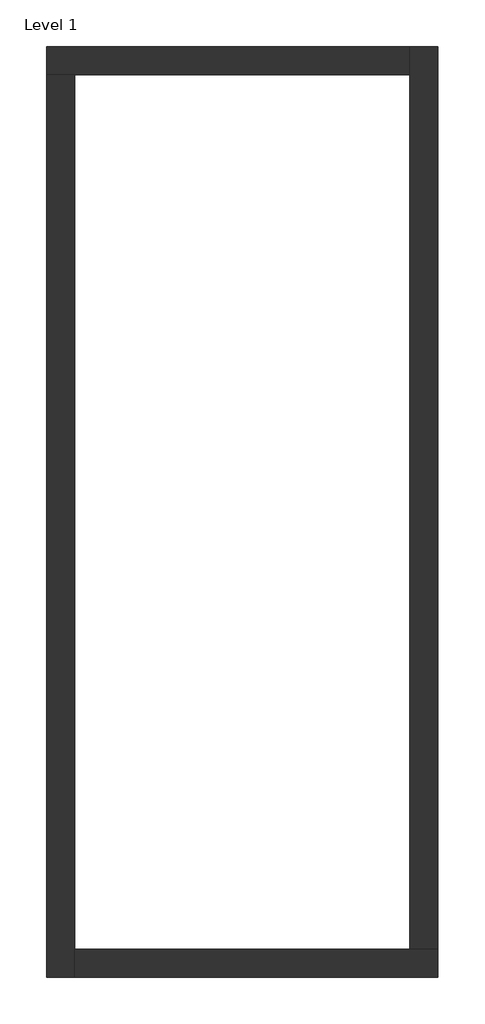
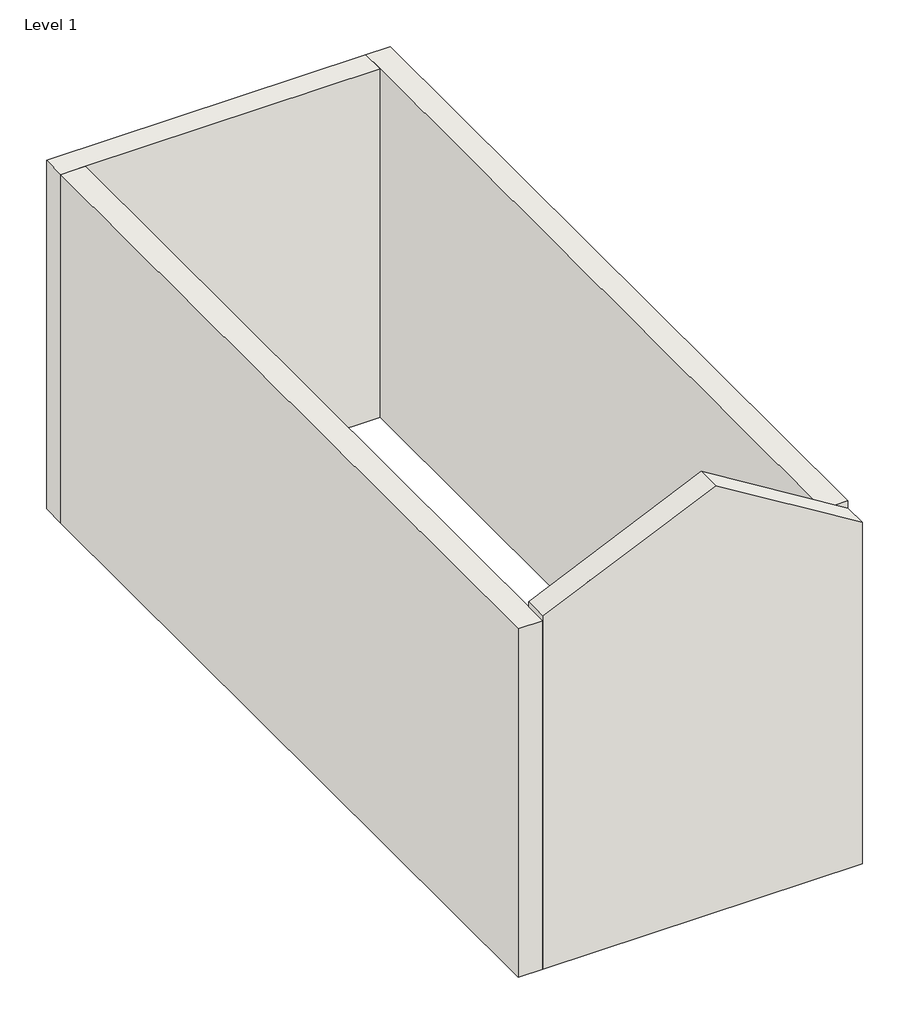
# One storey: 4 walls.
"""IFC4 building model written with IfcOpenShell, lengths in millimetres."""

import ifcopenshell
import ifcopenshell.guid

model = None  # the IFC model being written
_history = None  # IfcOwnerHistory: only IFC2X3 demands one
_inside = {}  # id of a spatial element -> (the spatial element, [elements in it])
_under = {}  # id of a project, library or spatial element -> (it, [spatial elements below it])
_declared = {}  # id of a project -> (the project, [libraries it declares])
_typed = {}  # id of a type object -> (the type object, [elements of that type])
_made_of = {}  # id of a material, layer set ... -> (it, [elements and type objects made of it])


def new_model(schema):
    """Start an empty IFC model of exactly this schema.

    Asked for "IFC4X3", IfcOpenShell would pick the latest addendum, in which some entities
    have other attributes; the version numbers below select the first issue.
    IFC2X3 requires an IfcOwnerHistory on every rooted entity: one is made here for all.
    """
    global model, _history
    if schema == "IFC4X3":
        model = ifcopenshell.file(schema_version=(4, 3, 0, 0))
    else:
        model = ifcopenshell.file(schema=schema)
    _inside.clear()
    _under.clear()
    _declared.clear()
    _typed.clear()
    _made_of.clear()
    _history = None
    if model.schema == "IFC2X3":
        org = make("IfcOrganization", Name="unknown")
        user = make(
            "IfcPersonAndOrganization",
            ThePerson=make("IfcPerson", FamilyName="unknown"),
            TheOrganization=org,
        )
        app = make(
            "IfcApplication",
            ApplicationDeveloper=org,
            Version="unknown",
            ApplicationFullName="unknown",
            ApplicationIdentifier="unknown",
        )
        _history = make(
            "IfcOwnerHistory",
            OwningUser=user,
            OwningApplication=app,
            ChangeAction="ADDED",
            CreationDate=0,
        )
    return model


def make(cls, **values):
    """One entity of the class cls with the attributes given. An attribute that is None is left unset."""
    return model.create_entity(
        cls, **{name: value for name, value in values.items() if value is not None}
    )


def rooted(cls, **values):
    """An entity with a GlobalId (a new one), such as an element, a storey or a relation."""
    return make(cls, GlobalId=ifcopenshell.guid.new(), OwnerHistory=_history, **values)


def si_unit(unit_type, name, prefix=None):
    """IfcSIUnit, for example si_unit("LENGTHUNIT", "METRE", prefix="MILLI")."""
    return make("IfcSIUnit", UnitType=unit_type, Prefix=prefix, Name=name)


def assignment(units):
    """IfcUnitAssignment: the units of a project."""
    return None if units is None else make("IfcUnitAssignment", Units=units)


def point(xyz):
    """IfcCartesianPoint."""
    return None if xyz is None else make("IfcCartesianPoint", Coordinates=xyz)


def direction(xyz):
    """IfcDirection."""
    return None if xyz is None else make("IfcDirection", DirectionRatios=xyz)


def frame(location, z_axis=None, x_axis=None):
    """IfcAxis2Placement3D, a coordinate frame: its origin and axes. An axis left out is left unset."""
    return make(
        "IfcAxis2Placement3D",
        Location=point(location),
        Axis=direction(z_axis),
        RefDirection=direction(x_axis),
    )


def origin():
    """The frame at (0, 0, 0) with its axes left unset."""
    return frame((0.0, 0.0, 0.0))


def place(relative_to, where):
    """IfcLocalPlacement: puts the frame where relative to a parent placement (None: the world)."""
    return make(
        "IfcLocalPlacement", PlacementRelTo=relative_to, RelativePlacement=where
    )


def context(
    kind, dimensions, precision=None, world=None, true_north=None, identifier=None
):
    """IfcGeometricRepresentationContext, for example the 3D "Model" context."""
    return make(
        "IfcGeometricRepresentationContext",
        ContextIdentifier=identifier,
        ContextType=kind,
        CoordinateSpaceDimension=dimensions,
        Precision=precision,
        WorldCoordinateSystem=world,
        TrueNorth=true_north,
    )


def project(units=None, contexts=None):
    """IfcProject with its units and contexts."""
    return rooted(
        "IfcProject",
        Name="project",
        RepresentationContexts=contexts,
        UnitsInContext=assignment(units),
    )


def spatial(cls, under=None, at=None, **own):
    """A site, building, storey or space (cls), placed at a placement, below another one or the project."""
    s = rooted(cls, ObjectPlacement=at, **own)
    if under is not None:
        _under.setdefault(under.id(), (under, []))[1].append(s)
    return s


def faces_of(points, faces, orient=None, outer=None):
    """IfcFace entities. A face is a list of loops; a loop is a list of indices into points, from 0.

    orient and outer hold one flag for each loop. By default every Orientation is true, the
    first loop of a face is its IfcFaceOuterBound and the others are IfcFaceBound.
    """
    made = []
    for i, loops in enumerate(faces):
        bounds = []
        for j, loop in enumerate(loops):
            is_outer = j == 0 if outer is None else outer[i][j]
            bounds.append(
                make(
                    "IfcFaceOuterBound" if is_outer else "IfcFaceBound",
                    Bound=make("IfcPolyLoop", Polygon=[points[k] for k in loop]),
                    Orientation=True if orient is None else orient[i][j],
                )
            )
        made.append(make("IfcFace", Bounds=bounds))
    return made


def faceted_brep(points, faces, orient=None, outer=None, voids=None):
    """IfcFacetedBrep: a solid bounded by flat faces; with voids (closed shells), ...WithVoids."""
    shared = [point(p) for p in points]
    hull = make("IfcClosedShell", CfsFaces=faces_of(shared, faces, orient, outer))
    if voids is None:
        return make("IfcFacetedBrep", Outer=hull)
    return make(
        "IfcFacetedBrepWithVoids",
        Outer=hull,
        Voids=[
            make(cls, CfsFaces=faces_of(shared, fs, o, b)) for cls, fs, o, b in voids
        ],
    )


def shape(context_of_items, identifier, shape_type, items):
    """IfcShapeRepresentation: the items that make up one representation, for example the "Body"."""
    return make(
        "IfcShapeRepresentation",
        ContextOfItems=context_of_items,
        RepresentationIdentifier=identifier,
        RepresentationType=shape_type,
        Items=items,
    )


def made_of(thing, what):
    """Note that an element or type object is made of a material, layer set ...; save() writes the relation."""
    if what is not None:
        _made_of.setdefault(what.id(), (what, []))[1].append(thing)
    return thing


def element(
    cls,
    number,
    at=None,
    inside=None,
    cuts=None,
    type_object=None,
    material=None,
    context=None,
    identifier="Body",
    shape_type=None,
    held_by="IfcProductDefinitionShape",
    body=None,
    shapes=None,
    **own,
):
    """One element of the class cls, such as IfcWall. Its Tag is "e" and its number.

    at: its placement. inside: the storey or other place that contains it. cuts: it is an
    opening in that element (IfcRelVoidsElement). A single representation is given by context,
    identifier, shape_type and body (its items); several are given by shapes. held_by: the class
    of the entity that holds the representations. save() writes the other relations.
    """
    e = rooted(cls, Tag="e%d" % number, ObjectPlacement=at, **own)
    if body is not None:
        shapes = [shape(context, identifier, shape_type, body)]
    if shapes is not None:
        e.Representation = make(held_by, Representations=shapes)
    if inside is not None:
        _inside.setdefault(inside.id(), (inside, []))[1].append(e)
    if cuts is not None:
        rooted(
            "IfcRelVoidsElement", RelatingBuildingElement=cuts, RelatedOpeningElement=e
        )
    if type_object is not None:
        _typed.setdefault(type_object.id(), (type_object, []))[1].append(e)
    return made_of(e, material)


def aggregate(whole, parts):
    """IfcRelAggregates: a whole, such as a stair, and the parts it consists of."""
    return rooted("IfcRelAggregates", RelatingObject=whole, RelatedObjects=parts)


def save(model, path):
    """Write the relations noted so far, then the file.

    IfcRelAggregates (storeys below a building ...), IfcRelContainedInSpatialStructure (elements
    in a storey), IfcRelDefinesByType, IfcRelAssociatesMaterial and IfcRelDeclares: one each for
    every whole, place, type object, material and project.
    """
    for whole, parts in _under.values():
        aggregate(whole, parts)
    for where, things in _inside.values():
        rooted(
            "IfcRelContainedInSpatialStructure",
            RelatedElements=things,
            RelatingStructure=where,
        )
    for kind, things in _typed.values():
        rooted("IfcRelDefinesByType", RelatedObjects=things, RelatingType=kind)
    for what, things in _made_of.values():
        rooted("IfcRelAssociatesMaterial", RelatedObjects=things, RelatingMaterial=what)
    for by, libraries in _declared.values():
        rooted("IfcRelDeclares", RelatingContext=by, RelatedDefinitions=libraries)
    model.write(path)


model = new_model("IFC4")

# Units and contexts
model_context = context("Model", 3, world=origin())
ifc_project = project(units=[si_unit("LENGTHUNIT", "METRE", prefix="MILLI")], contexts=[model_context])

# Site, building, storey
site = spatial("IfcSite", under=ifc_project)
building = spatial("IfcBuilding", under=site)
storey = spatial("IfcBuildingStorey", under=building, Name="Level 1", Elevation=0.0)

# Walls
placement = place(None, origin())
element("IfcWall", 1, ObjectType="Generic - 8\"", at=placement, inside=storey, context=model_context, shape_type="Brep", body=[
    faceted_brep([(-15488.4834209, 15519.2236327, 0.0), (-15285.2834209, 15519.2236327, 0.0), (-12846.8834209, 15519.2236327, 0.0), (-12846.8834209, 15519.2236327, 3048.0), (-15285.2834209, 15519.2236327, 3048.0), (-15488.4834209, 15519.2236327, 3048.0), (-15488.4834209, 15722.4236327, 0.0), (-15488.4834209, 15722.4236327, 3048.0), (-12846.8834209, 15722.4236327, 3048.0), (-12846.8834209, 15722.4236327, 0.0)], [[[0, 1, 2, 3, 4, 5]], [[6, 7, 8, 9]], [[2, 1, 0, 6, 9]], [[5, 4, 3, 8, 7]], [[0, 5, 7, 6]], [[3, 2, 9, 8]]]),
])
element("IfcWall", 2, ObjectType="Generic - 8\"", at=placement, inside=storey, context=model_context, shape_type="Brep", body=[
    faceted_brep([(-15285.2834209, 8966.0236327, 0.0), (-15285.2834209, 9169.2236327, 0.0), (-15285.2834209, 15519.2236327, 0.0), (-15285.2834209, 15519.2236327, 3048.0), (-15285.2834209, 8966.0236327, 3048.0), (-15488.4834209, 8966.0236327, 0.0), (-15488.4834209, 8966.0236327, 3048.0), (-15488.4834209, 15519.2236327, 3048.0), (-15488.4834209, 15519.2236327, 0.0)], [[[0, 1, 2, 3, 4]], [[5, 6, 7, 8]], [[2, 1, 0, 5, 8]], [[4, 3, 7, 6]], [[0, 4, 6, 5]], [[3, 2, 8, 7]]]),
])
element("IfcWall", 3, ObjectType="Generic - 8\"", at=placement, inside=storey, context=model_context, shape_type="Brep", body=[
    faceted_brep([(-12643.6834209, 9169.2236327, 0.0), (-12846.8834209, 9169.2236327, 0.0), (-15285.2834209, 9169.2236327, 0.0), (-15285.2834209, 9169.2236327, 3093.2352344), (-13855.4158157, 9169.2236327, 3729.8533085), (-12643.6834209, 9169.2236327, 2985.5963656), (-12643.6834209, 8966.0236327, 0.0), (-12643.6834209, 8966.0236327, 2985.5963656), (-13855.4158157, 8966.0236327, 3729.8533085), (-15285.2834209, 8966.0236327, 3093.2352344), (-15285.2834209, 8966.0236327, 3048.0), (-15285.2834209, 8966.0236327, 0.0)], [[[0, 1, 2, 3, 4, 5]], [[6, 7, 8, 9, 10, 11]], [[0, 5, 7, 6]], [[3, 2, 11, 10, 9]], [[2, 1, 0, 6, 11]], [[4, 3, 9, 8]], [[5, 4, 8, 7]]]),
])
element("IfcWall", 4, ObjectType="Generic - 8\"", at=placement, inside=storey, context=model_context, shape_type="Brep", body=[
    faceted_brep([(-12846.8834209, 15722.4236327, 0.0), (-12846.8834209, 15519.2236327, 0.0), (-12846.8834209, 9169.2236327, 0.0), (-12846.8834209, 9169.2236327, 3048.0), (-12846.8834209, 15519.2236327, 3048.0), (-12846.8834209, 15722.4236327, 3048.0), (-12643.6834209, 15722.4236327, 0.0), (-12643.6834209, 15722.4236327, 3048.0), (-12643.6834209, 9169.2236327, 3048.0), (-12643.6834209, 9169.2236327, 2985.5963656), (-12643.6834209, 9169.2236327, 0.0)], [[[0, 1, 2, 3, 4, 5]], [[6, 7, 8, 9, 10]], [[2, 1, 0, 6, 10]], [[5, 4, 3, 8, 7]], [[0, 5, 7, 6]], [[3, 2, 10, 9, 8]]]),
])

save(model, "model.ifc")
